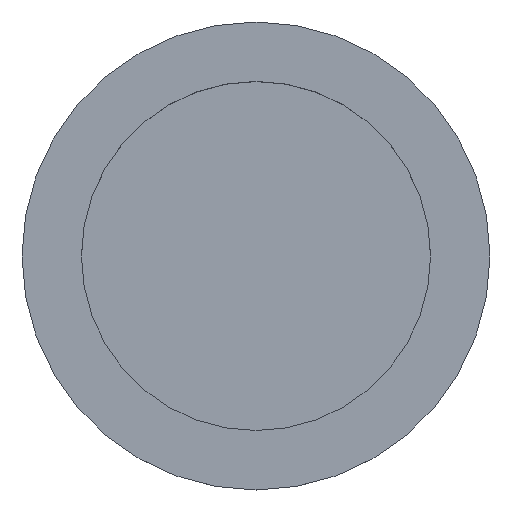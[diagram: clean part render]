
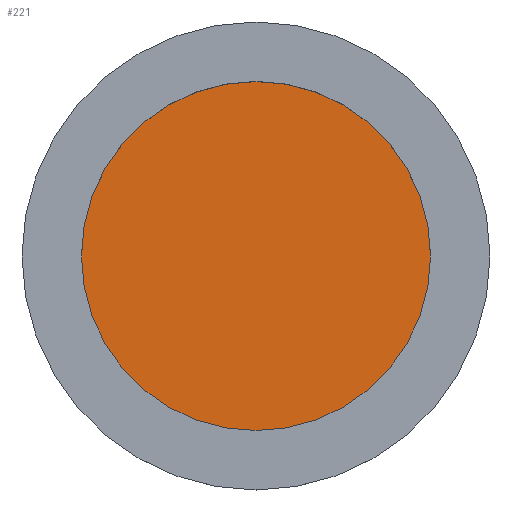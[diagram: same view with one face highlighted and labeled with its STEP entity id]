
A CAD part, top view. The second image highlights one B-rep face of the part: STEP entity #221.
In plain terms, the highlighted planar face has unit normal (0, 0, 1).
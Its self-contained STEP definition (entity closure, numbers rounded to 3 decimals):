
#190=CARTESIAN_POINT('',(45.5,0.,5.0));
#191=VERTEX_POINT('',#190);
#192=CARTESIAN_POINT('',(0.0,0.0,5.0));
#193=DIRECTION('',(0.0,0.0,1.0));
#194=DIRECTION('',(-1.0,0.0,0.0));
#195=AXIS2_PLACEMENT_3D('',#192,#193,#194);
#196=CIRCLE('',#195,45.5);
#197=EDGE_CURVE('',#191,#191,#196,.T.);
#213=CARTESIAN_POINT('',(0.0,0.0,5.0));
#214=DIRECTION('',(0.0,0.0,-1.0));
#215=DIRECTION('',(-1.0,0.0,0.0));
#216=AXIS2_PLACEMENT_3D('',#213,#214,#215);
#217=PLANE('',#216);
#218=ORIENTED_EDGE('',*,*,#197,.T.);
#219=EDGE_LOOP('',(#218));
#220=FACE_OUTER_BOUND('',#219,.T.);
#221=ADVANCED_FACE('',(#220),#217,.F.);
